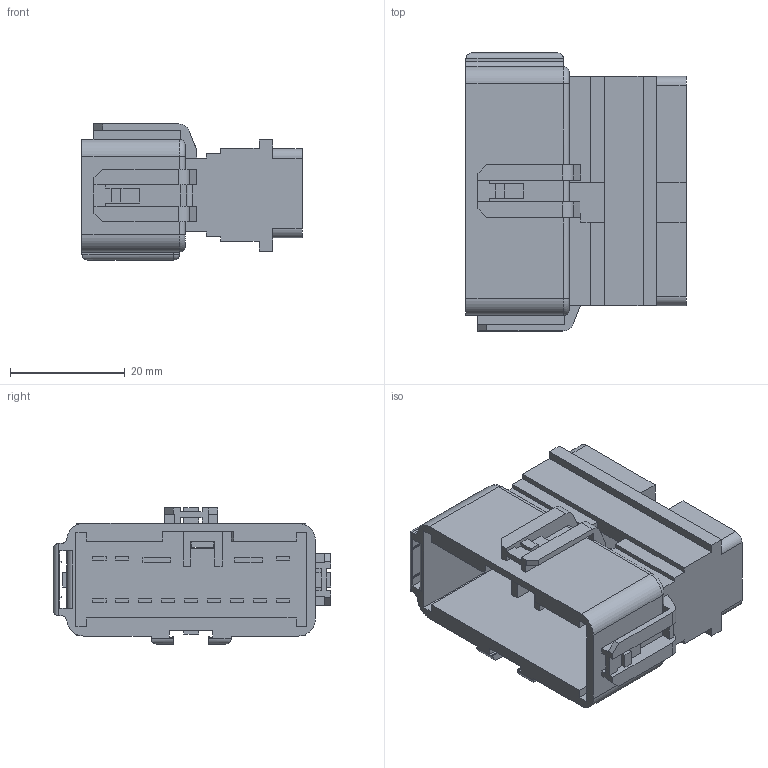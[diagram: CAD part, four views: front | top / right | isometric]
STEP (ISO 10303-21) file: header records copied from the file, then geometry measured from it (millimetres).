
FILE_DESCRIPTION(('CATIA V5 STEP Exchange','CAx-IF Rec.Pracs.--- Model Styling and Organization---1.2---2011-12-15'),'2;1');
FILE_NAME('N:\C-DAM_MyDesk\ENV\13110C\(HE) 3Dcatalog stepfile\6098-4660.stp','2016-06-24T04:53:13+00:00',('none'),('none'),'CATIA Version 5-6 Release 2012 SP4 HF74','CATIA V5 STEP AP214','none');
FILE_SCHEMA(('AUTOMOTIVE_DESIGN { 1 0 10303 214 1 1 1 1 }'));
Length unit declared in the file: millimetre
Products named in the file (1): 6098-4660
Bounding box: 38.4 x 48.5 x 23.75 mm (x, y, z)
Volume: 18229.6 mm3; surface area: 10969 mm2
Topology: 1 solids, 1 shells, 372 faces, 1028 edges, 676 vertices
Faces by surface type: plane 329, cylinder 37, torus 4, sphere 2
Entity records: 11151 total; most frequent: ORIENTED_EDGE 2052, CARTESIAN_POINT 2039, DIRECTION 1560, EDGE_CURVE 1026, VECTOR 948, LINE 948, VERTEX_POINT 676, EDGE_LOOP 406
